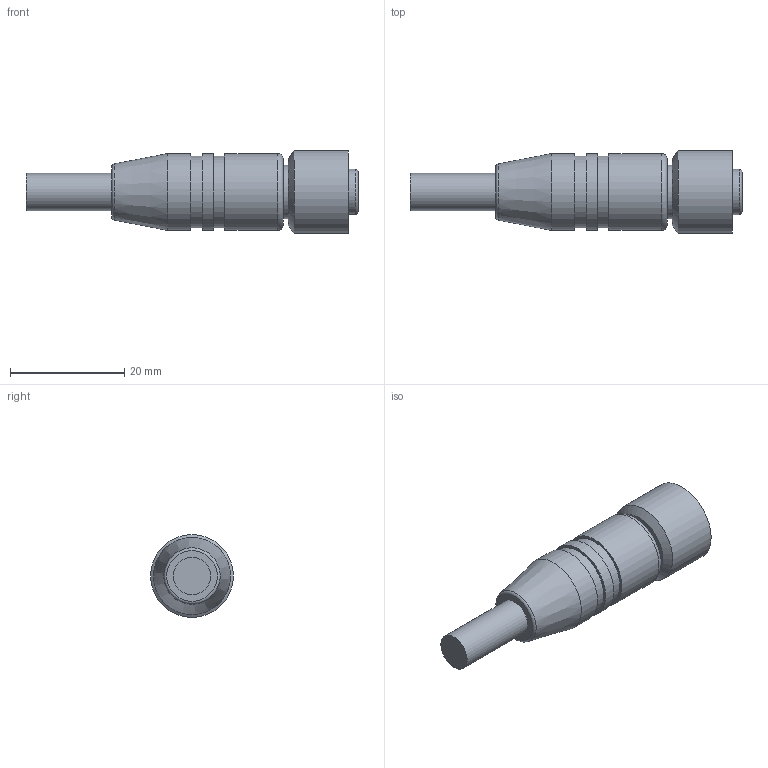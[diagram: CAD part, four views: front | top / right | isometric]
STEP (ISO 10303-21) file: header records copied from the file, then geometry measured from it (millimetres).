
FILE_DESCRIPTION( ( 'Unknown' ), '1' );
FILE_NAME( 'C:/Users/axb02011/Desktop/RKTS_4_000-062-A09_0_1_000163885DNR.stp', 'Unknown', ( 'Unknown' ), ( 'Unknown' ), 'PSStep 15.0.49', 'Unknown', ' ' );
FILE_SCHEMA( ( 'AUTOMOTIVE_DESIGN { 1 0 10303 214 1 1 1 1 }' ) );
Length unit declared in the file: millimetre
Products named in the file (1): 000-624-C17_1_1_000134292DNR
Bounding box: 58.1 x 14.5 x 14.5 mm (x, y, z)
Volume: 5810.2 mm3; surface area: 3066.9 mm2
Topology: 1 solids, 1 shells, 101 faces, 240 edges, 159 vertices
Faces by surface type: plane 59, cylinder 23, cone 8, torus 6, extrusion 5
Full cylindrical faces by diameter (mm): 1.1 x4, 2 x1, 5 x1, 6.5 x1, 7.5 x1, 9.4 x1, 11.05 x1, 12.2 x1, 12.5 x2, 13.5 x3, 14.5 x1
Entity records: 4092 total; most frequent: CARTESIAN_POINT 1070, DIRECTION 450, ORIENTED_EDGE 402, EDGE_CURVE 201, AXIS2_PLACEMENT_3D 165, VERTEX_POINT 150, EDGE_LOOP 148, FACE_OUTER_BOUND 122
